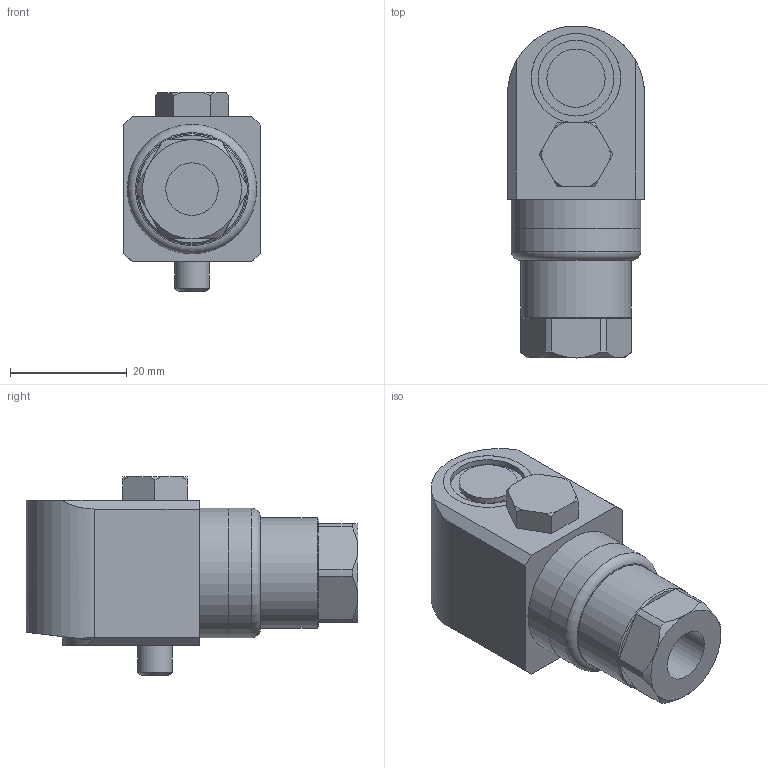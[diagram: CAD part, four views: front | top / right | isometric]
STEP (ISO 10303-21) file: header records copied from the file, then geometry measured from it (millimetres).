
FILE_DESCRIPTION(/* description */ (''),/* implementation_level */ '2;1');
FILE_NAME(/* name */ 'Z:\Engineering\Drawings\3D Library\Assemblies\Website\Premium Side\Compact\HS-170 Side Silicon\HS-170SXXX0702.stp',/* time_stamp */ '2023-03-21T15:46:42+00:00',/* author */ ('Ricardo.Peneda'),/* organization */ (''),/* preprocessor_version */ 'ST-DEVELOPER v18.1',/* originating_system */ 'Autodesk Inventor 2021',/* authorisation */ '');
FILE_SCHEMA (('AUTOMOTIVE_DESIGN { 1 0 10303 214 3 1 1 }'));
Length unit declared in the file: inch
Products named in the file (1): HS-170SXXX0702_Shrinkwrap_1
Bounding box: 23.5 x 56.99 x 34 mm (x, y, z)
Volume: 15724.2 mm3; surface area: 10994.4 mm2
Topology: 5 solids, 5 shells, 94 faces, 233 edges, 165 vertices
Faces by surface type: plane 47, cylinder 30, cone 16, torus 1
Full cylindrical faces by diameter (mm): 2.5 x1, 4.5 x1, 6 x2, 7 x1, 9 x1, 10 x1, 12 x2, 13 x1, 14 x1, 14.9 x1, 15 x2, 15.34 x1, 15.35 x1, 18 x1, 19 x1, 19.95 x1, 20 x1, 22.2 x2
Entity records: 3053 total; most frequent: CARTESIAN_POINT 570, DIRECTION 522, ORIENTED_EDGE 466, EDGE_CURVE 233, AXIS2_PLACEMENT_3D 220, VERTEX_POINT 165, EDGE_LOOP 118, CIRCLE 114
